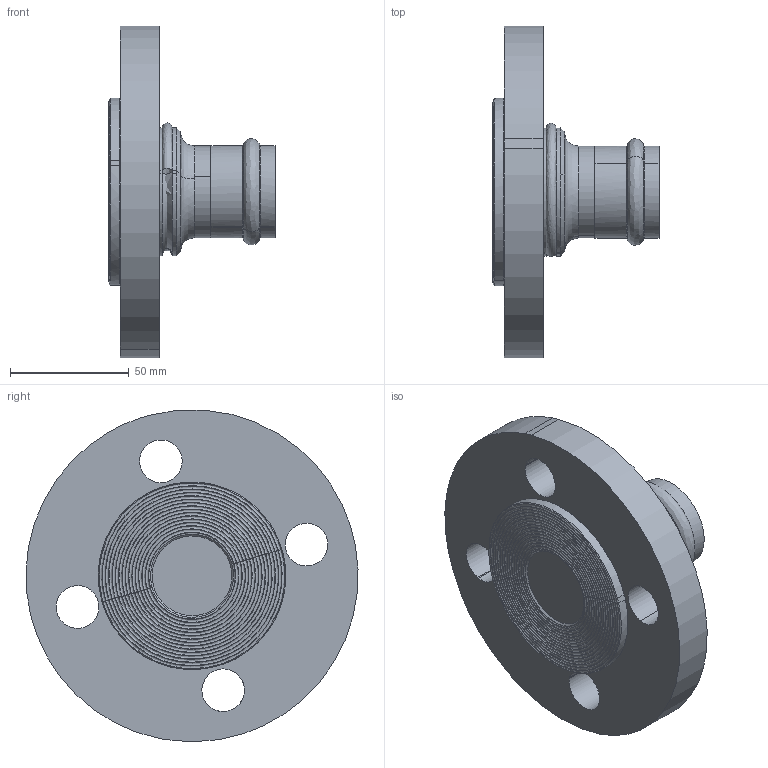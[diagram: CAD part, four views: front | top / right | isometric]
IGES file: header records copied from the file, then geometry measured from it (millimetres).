
Start section: 3D InterOp IGES (Version 25 0 1), Spatial Corp. Copyright (c) 1999-2007.
Global section: file name: pim0001618.igs; native system: Spatial Corp.; preprocessor: 3D InterOp ACIS/IGES; author: CAD-PIM; organization: TransMagic, Inc.; date: 20150317.114231; units: millimetre
Bounding box: 70 x 139.92 x 139.81 mm (x, y, z)
Volume: 303483.4 mm3; surface area: 51030.5 mm2
Topology: 1 solids, 1 shells, 117 faces, 297 edges, 195 vertices
Faces by surface type: bspline 117
